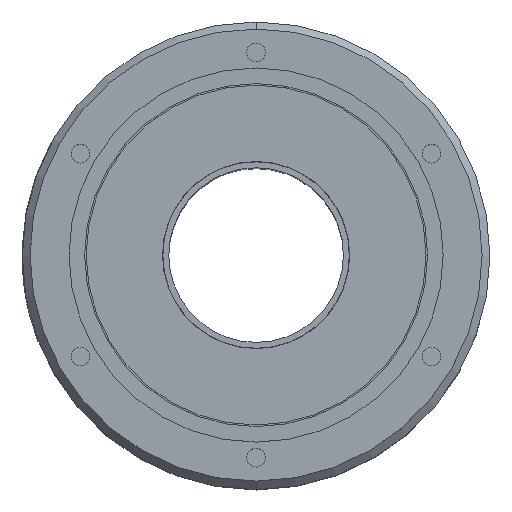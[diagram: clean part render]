
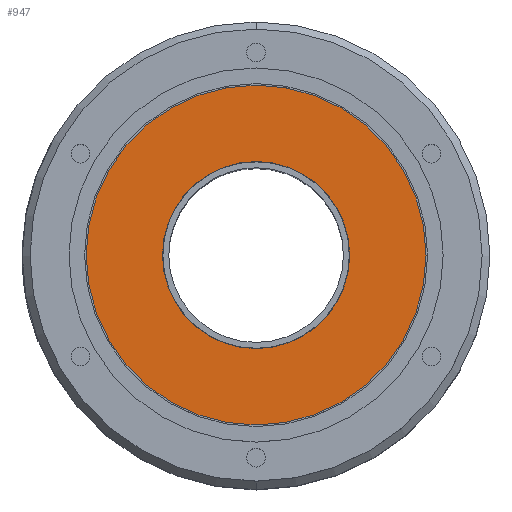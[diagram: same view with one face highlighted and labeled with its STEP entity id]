
A CAD part, top view. The second image highlights one B-rep face of the part: STEP entity #947.
In plain terms, the highlighted planar face has unit normal (0, 0, 1).
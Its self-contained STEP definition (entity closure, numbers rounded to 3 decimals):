
#628 = EDGE_CURVE ( 'NONE', #706, #645, #2462, .T. ) ;
#645 = VERTEX_POINT ( 'NONE', #2505 ) ;
#674 = VERTEX_POINT ( 'NONE', #2609 ) ;
#675 = EDGE_CURVE ( 'NONE', #679, #674, #2610, .T. ) ;
#679 = VERTEX_POINT ( 'NONE', #2595 ) ;
#706 = VERTEX_POINT ( 'NONE', #2680 ) ;
#880 = EDGE_LOOP ( 'NONE', ( #948, #950 ) ) ;
#889 = EDGE_LOOP ( 'NONE', ( #944, #949 ) ) ;
#892 = EDGE_CURVE ( 'NONE', #645, #706, #3041, .T. ) ;
#944 = ORIENTED_EDGE ( 'NONE', *, *, #892, .F. ) ;
#947 = ADVANCED_FACE ( 'NONE', ( #3136, #3148 ), #3113, .T. ) ;
#948 = ORIENTED_EDGE ( 'NONE', *, *, #675, .T. ) ;
#949 = ORIENTED_EDGE ( 'NONE', *, *, #628, .F. ) ;
#950 = ORIENTED_EDGE ( 'NONE', *, *, #951, .T. ) ;
#951 = EDGE_CURVE ( 'NONE', #674, #679, #3092, .T. ) ;
#2462 = CIRCLE ( 'NONE', #2476, 30. ) ;
#2476 = AXIS2_PLACEMENT_3D ( 'NONE', #2519, #2518, #2517 ) ;
#2505 = CARTESIAN_POINT ( 'NONE',  ( 30., 0., 207. ) ) ;
#2517 = DIRECTION ( 'NONE',  ( 1., 0., 0. ) ) ;
#2518 = DIRECTION ( 'NONE',  ( 0., 0., 1. ) ) ;
#2519 = CARTESIAN_POINT ( 'NONE',  ( 0., 0., 207. ) ) ;
#2595 = CARTESIAN_POINT ( 'NONE',  ( 54.5, 0., 207. ) ) ;
#2597 = DIRECTION ( 'NONE',  ( 1., 0., 0. ) ) ;
#2598 = DIRECTION ( 'NONE',  ( 0., 0., 1. ) ) ;
#2599 = CARTESIAN_POINT ( 'NONE',  ( 0., 0., 207. ) ) ;
#2600 = AXIS2_PLACEMENT_3D ( 'NONE', #2599, #2598, #2597 ) ;
#2609 = CARTESIAN_POINT ( 'NONE',  ( -54.5, 0., 207. ) ) ;
#2610 = CIRCLE ( 'NONE', #2600, 54.5 ) ;
#2680 = CARTESIAN_POINT ( 'NONE',  ( -30., 0., 207. ) ) ;
#3038 = DIRECTION ( 'NONE',  ( 1., 0., 0. ) ) ;
#3039 = DIRECTION ( 'NONE',  ( 0., 0., 1. ) ) ;
#3041 = CIRCLE ( 'NONE', #3048, 30. ) ;
#3048 = AXIS2_PLACEMENT_3D ( 'NONE', #3055, #3039, #3038 ) ;
#3055 = CARTESIAN_POINT ( 'NONE',  ( 0., 0., 207. ) ) ;
#3092 = CIRCLE ( 'NONE', #3135, 54.5 ) ;
#3100 = AXIS2_PLACEMENT_3D ( 'NONE', #3152, #3140, #3132 ) ;
#3101 = CARTESIAN_POINT ( 'NONE',  ( 0., 0., 207. ) ) ;
#3113 = PLANE ( 'NONE',  #3100 ) ;
#3127 = DIRECTION ( 'NONE',  ( 1., 0., 0. ) ) ;
#3128 = DIRECTION ( 'NONE',  ( 0., 0., 1. ) ) ;
#3132 = DIRECTION ( 'NONE',  ( 0., -1., 0. ) ) ;
#3135 = AXIS2_PLACEMENT_3D ( 'NONE', #3101, #3128, #3127 ) ;
#3136 = FACE_BOUND ( 'NONE', #889, .T. ) ;
#3140 = DIRECTION ( 'NONE',  ( 0., 0., 1. ) ) ;
#3148 = FACE_OUTER_BOUND ( 'NONE', #880, .T. ) ;
#3152 = CARTESIAN_POINT ( 'NONE',  ( 0., -28., 207. ) ) ;
